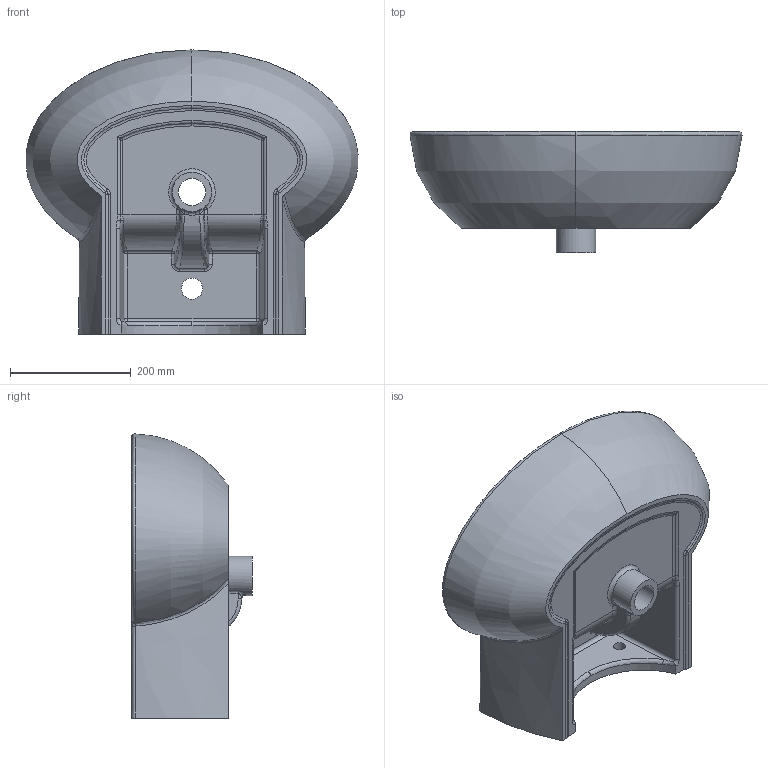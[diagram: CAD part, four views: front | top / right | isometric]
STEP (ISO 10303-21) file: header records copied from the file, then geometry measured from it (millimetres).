
FILE_DESCRIPTION(/* description */ (''),/* implementation_level */ '2;1');
FILE_NAME(/* name */ 'C:\Users\m.cicconi\Desktop\AZZURRA 3D\07 COMODA\LAVABI COMODA\COMODA LAVABI STEP\COM55_S.stp',/* time_stamp */ '2017-12-20T12:07:28+01:00',/* author */ ('m.cicconi'),/* organization */ (''),/* preprocessor_version */ 'ST-DEVELOPER v16.1',/* originating_system */ 'Autodesk Inventor 2016',/* authorisation */ '');
FILE_SCHEMA (('AUTOMOTIVE_DESIGN { 1 0 10303 214 3 1 1 }'));
Length unit declared in the file: metre
Products named in the file (1): COM55_S
Bounding box: 549.1 x 200 x 469.9 mm (x, y, z)
Volume: 13004260.1 mm3; surface area: 767736.4 mm2
Topology: 1 solids, 1 shells, 117 faces, 276 edges, 160 vertices
Faces by surface type: bspline 56, cylinder 30, plane 15, sphere 10, torus 5, cone 1
Full cylindrical faces by diameter (mm): 20 x2, 35 x1, 45 x1, 65 x1
Entity records: 16418 total; most frequent: CARTESIAN_POINT 14071, ORIENTED_EDGE 526, DIRECTION 417, EDGE_CURVE 263, AXIS2_PLACEMENT_3D 180, VERTEX_POINT 155, EDGE_LOOP 132, FACE_OUTER_BOUND 117
